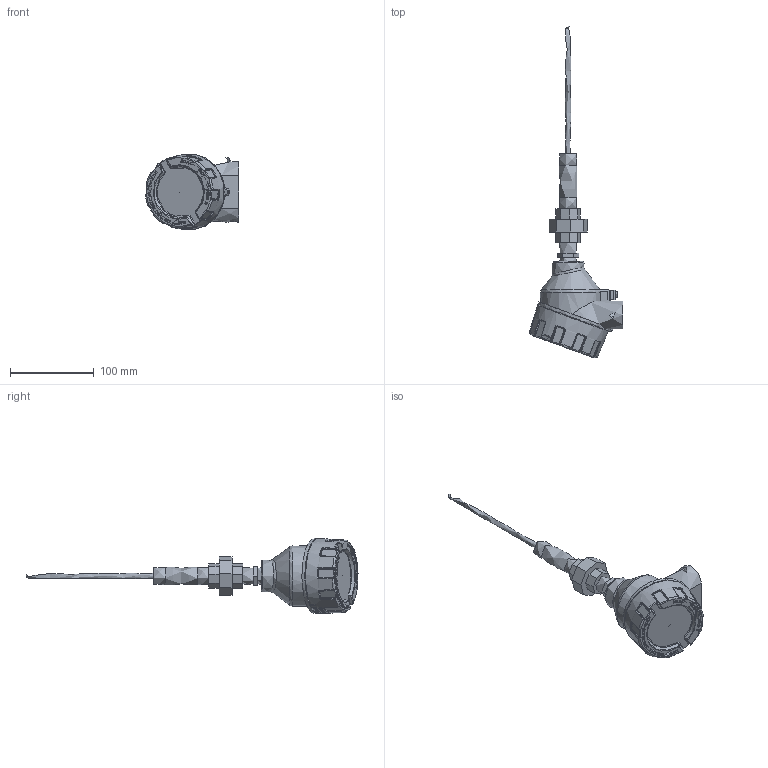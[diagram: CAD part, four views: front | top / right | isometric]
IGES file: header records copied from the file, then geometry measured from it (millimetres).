
Global section: file name: Z-Temp-Head-Nipple-Union-Nipple-IGS; native system: Autodesk Inventor 2014; preprocessor: unknown; author: Charles; date: 20151111.124656; units: inch
Bounding box: 111.13 x 395.34 x 89.8 mm (x, y, z)
Volume: 317020.4 mm3; surface area: 96292.6 mm2
Topology: 3 solids, 8 shells, 1437 faces, 3675 edges, 2332 vertices
Faces by surface type: bspline 1437
